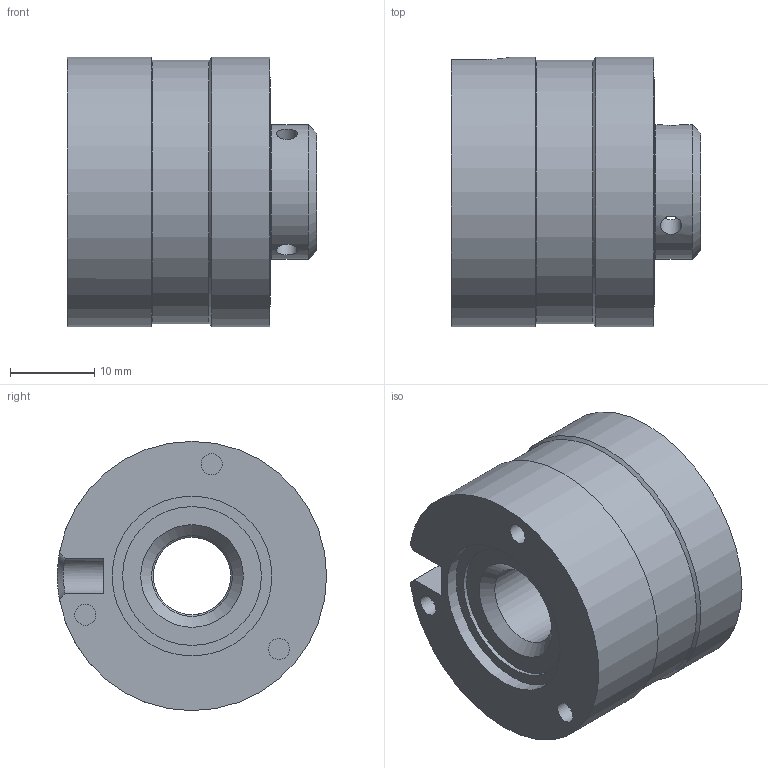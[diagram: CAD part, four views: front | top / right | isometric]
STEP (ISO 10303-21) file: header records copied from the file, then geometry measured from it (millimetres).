
FILE_DESCRIPTION (( 'STEP AP214' ), '1' );
FILE_NAME ('86 61103Pxx_PF-ID_243560.STEP', '2020-02-03T13:27:11', ( '' ), ( '' ), 'SwSTEP 2.0', 'SolidWorks 2018', '' );
FILE_SCHEMA (( 'AUTOMOTIVE_DESIGN' ));
Length unit declared in the file: millimetre
Products named in the file (1): 86 61103Pxx_PF-ID_243560
Bounding box: 29.6 x 32 x 32 mm (x, y, z)
Volume: 16656.7 mm3; surface area: 8026.3 mm2
Topology: 2 solids, 2 shells, 63 faces, 115 edges, 71 vertices
Faces by surface type: cylinder 26, plane 24, cone 9, torus 3, bspline 1
Full cylindrical faces by diameter (mm): 2.5 x6, 9.2 x1, 9.6 x1, 11 x1, 12 x1, 13 x1, 16 x1, 16.5 x1, 19 x1, 22.3 x1, 28.5 x1, 29 x2, 29.3 x1, 29.5 x1, 30.1 x1, 30.5 x1, 31.3 x1, 32 x2
Entity records: 2057 total; most frequent: CARTESIAN_POINT 809, DIRECTION 247, ORIENTED_EDGE 154, EDGE_LOOP 125, AXIS2_PLACEMENT_3D 117, FACE_OUTER_BOUND 91, EDGE_CURVE 77, VERTEX_POINT 70
